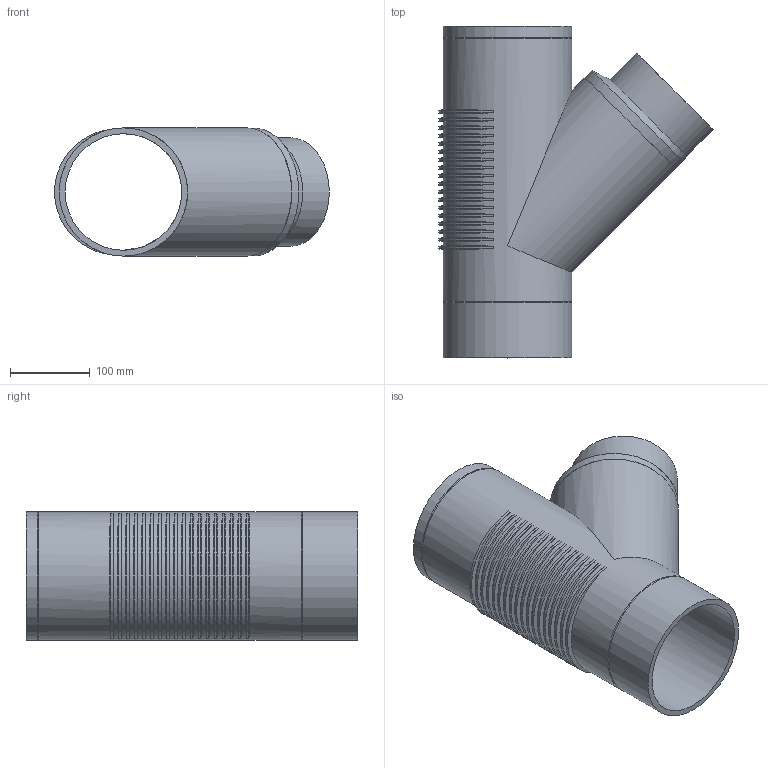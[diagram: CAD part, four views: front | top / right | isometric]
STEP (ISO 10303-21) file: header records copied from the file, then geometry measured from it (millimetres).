
FILE_DESCRIPTION(/* description */ (''),/* implementation_level */ '2;1');
FILE_NAME(/* name */ 'Z:\Geberit\Export\NewStep\315124.stp',/* time_stamp */ '2014-04-01T20:14:49+02:00',/* author */ ('ML'),/* organization */ (''),/* preprocessor_version */ 'ST-DEVELOPER v15.2',/* originating_system */ 'Autodesk Inventor 2014',/* authorisation */ '');
FILE_SCHEMA (('AUTOMOTIVE_DESIGN { 1 0 10303 214 3 1 1 }'));
Length unit declared in the file: millimetre
Products named in the file (3): 862119; 862530; 315124
Bounding box: 343.44 x 415 x 160.47 mm (x, y, z)
Volume: 1996267.3 mm3; surface area: 586310.3 mm2
Topology: 2 solids, 2 shells, 75 faces, 198 edges, 145 vertices
Faces by surface type: cone 40, cylinder 28, plane 5, bspline 2
Full cylindrical faces by diameter (mm): 122.95 x1, 135.45 x1, 145.3 x1, 145.775 x2, 160 x1, 160.475 x4
Entity records: 3436 total; most frequent: CARTESIAN_POINT 1654, ORIENTED_EDGE 352, DIRECTION 324, EDGE_CURVE 176, AXIS2_PLACEMENT_3D 144, VERTEX_POINT 138, EDGE_LOOP 114, ADVANCED_FACE 75
